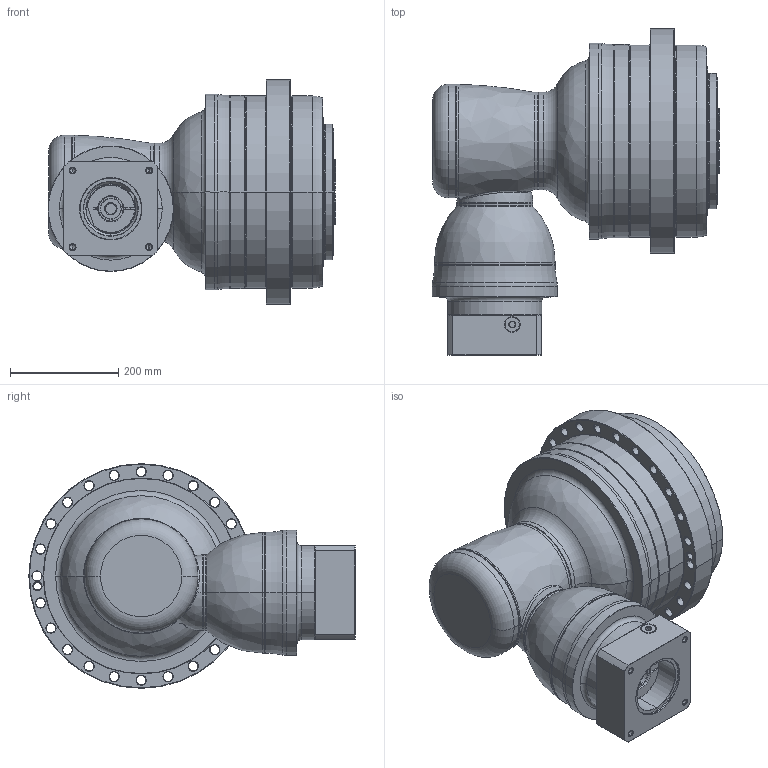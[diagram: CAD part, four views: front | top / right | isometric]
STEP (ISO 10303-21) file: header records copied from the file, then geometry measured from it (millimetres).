
FILE_DESCRIPTION((''),'2;1');
FILE_NAME('APCK355_4ST_38-P0409910201_ASM','2018-05-17T',('d01226'),(''),'PRO/ENGINEER BY PARAMETRIC TECHNOLOGY CORPORATION, 2008410','PRO/ENGINEER BY PARAMETRIC TECHNOLOGY CORPORATION, 2008410','');
FILE_SCHEMA(('CONFIG_CONTROL_DESIGN'));
Length unit declared in the file: millimetre
Products named in the file (13): P1008600002; P1315600001; P1007601001; P1317610401; P0409910201; P0503900012; P0912554001; 21711422019; P1821110001; P0276101003; P03571G0103; P1222100001; APCK355_4ST_38-P0409910201_ASM
Assembly tree (12 placements, depth 2):
  APCK355_4ST_38-P0409910201_ASM
    P1008600002
    P1315600001
    P1007601001
    P1317610401
    P0409910201
    P0503900012
    P0912554001
    21711422019
    P1821110001
    P0276101003
    P03571G0103
    P1222100001
Bounding box: 532.1 x 603 x 415 mm (x, y, z)
Volume: 45635827.3 mm3; surface area: 2101803.5 mm2
Topology: 13 solids, 25 shells, 822 faces, 1974 edges, 1210 vertices
Faces by surface type: cone 258, cylinder 229, plane 155, torus 147, bspline 31, sphere 2
Entity records: 31997 total; most frequent: CARTESIAN_POINT 12404, DIRECTION 4371, ORIENTED_EDGE 3870, EDGE_CURVE 1960, AXIS2_PLACEMENT_3D 1937, VERTEX_POINT 1210, CIRCLE 1109, EDGE_LOOP 936
